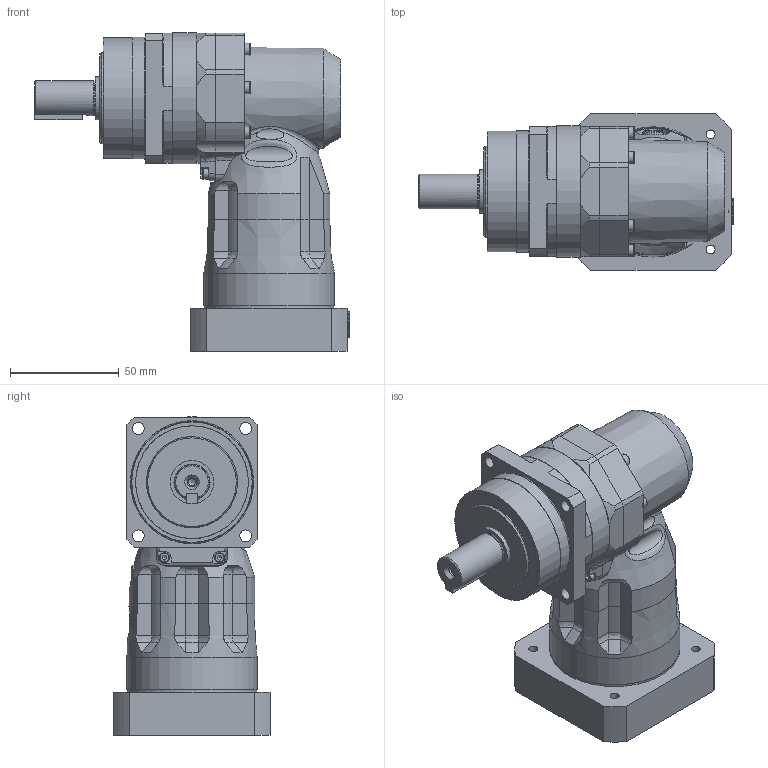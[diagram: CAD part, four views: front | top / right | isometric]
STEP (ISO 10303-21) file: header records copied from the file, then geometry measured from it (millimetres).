
FILE_DESCRIPTION(/* description */ ('ANFX-PK110W-3-H11G'),/* implementation_level */ '2;1');
FILE_NAME(/* name */ 'C:\Users\ADMINI~1\AppData\Local\Temp\MM581315_ANFX-PK110W-3-H11G.stp',/* time_stamp */ '2018-07-11T14:41:27+02:00',/* author */ ('Max'),/* organization */ (''),/* preprocessor_version */ 'ST-DEVELOPER v17',/* originating_system */ 'Autodesk Inventor 2018',/* authorisation */ '');
FILE_SCHEMA (('AUTOMOTIVE_DESIGN { 1 0 10303 214 3 1 1 }'));
Length unit declared in the file: millimetre
Products named in the file (25): MM581710; MMBG0004105; MMCM057LG; MMAF787LG; 202119; MMAP6508G; 009M004R012NG; M531N20357---G; 211458; 212123; 213374; MMBG0004130; MMCL239LG; MMCL433LG; MAW8353G; MAX4839G; M233C0505022NG; MMBG0004116; MMAF790LG; M009M2,5R020NG; MAZ16117-5; MMAP3153G; 133793; MAW8386G; 211554
Assembly tree (52 placements, depth 3):
  MM581710
    MMBG0004105
      MMCM057LG
      MMAF787LG
      202119
      MMAP6508G
      009M004R012NG
      M531N20357---G
      211458  x2
      212123  x8
      213374  x6
    MMBG0004130
      MMCL239LG
      MMCL433LG
      MAW8353G
      MAX4839G
      M233C0505022NG
    MMBG0004116
      MMAF790LG
      M009M2,5R020NG  x8
      MAZ16117-5  x2
      MMAP3153G
    133793
    MAW8386G
    211554  x8
Bounding box: 145 x 72 x 146.95 mm (x, y, z)
Volume: 339289.9 mm3; surface area: 154982.9 mm2
Topology: 118 solids, 119 shells, 1200 faces, 3377 edges, 2378 vertices
Faces by surface type: plane 539, cylinder 319, cone 135, torus 95, sphere 68, bspline 44
Full cylindrical faces by diameter (mm): 2 x1, 2.013 x10, 2.459 x14, 2.5 x10, 2.9 x18, 3 x14, 3.242 x10, 3.4 x14, 4 x9, 4.134 x4, 4.3 x1, 4.5 x19, 5.5 x26, 7 x9, 8 x8, 8.566 x2, 9.8 x1, 10 x1, 10.2 x1, 10.4 x1, 12 x1, 14 x1, 14.5 x1, 15 x2, 16 x1, 17.5 x1, 19 x1, 19.4 x1, 19.6 x1, 20 x3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
Entity records: 28700 total; most frequent: CARTESIAN_POINT 6743, DIRECTION 4656, ORIENTED_EDGE 4132, EDGE_CURVE 2066, AXIS2_PLACEMENT_3D 1974, VERTEX_POINT 1572, CIRCLE 1128, EDGE_LOOP 1028
